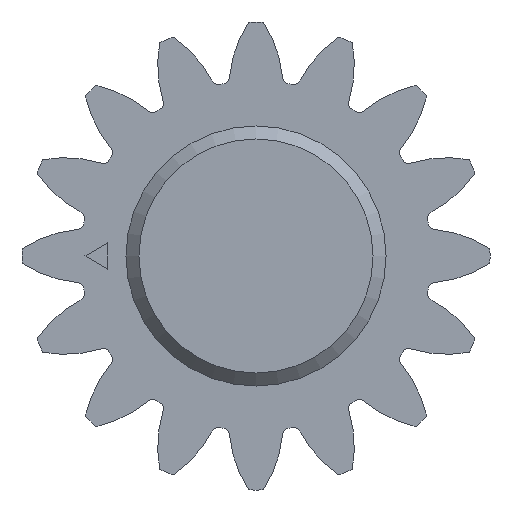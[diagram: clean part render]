
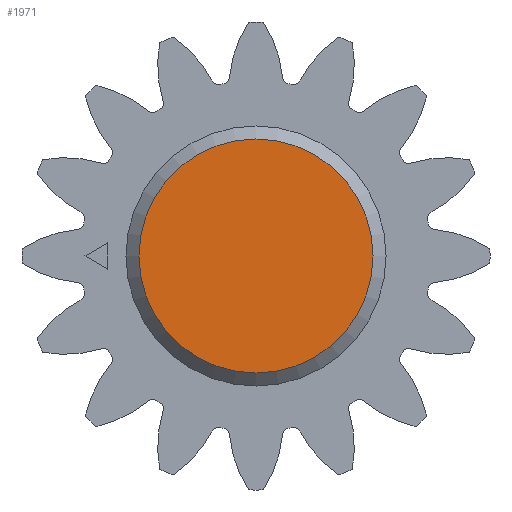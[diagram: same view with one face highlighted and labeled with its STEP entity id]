
A CAD part, left-side view. The second image highlights one B-rep face of the part: STEP entity #1971.
In plain terms, the highlighted planar face has unit normal (-1, 0, 0).
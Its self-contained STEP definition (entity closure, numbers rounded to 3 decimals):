
#119=CIRCLE('',#2107,9.);
#329=FACE_OUTER_BOUND('',#441,.T.);
#441=EDGE_LOOP('',(#1353));
#797=VERTEX_POINT('',#3196);
#1016=EDGE_CURVE('',#797,#797,#119,.T.);
#1353=ORIENTED_EDGE('',*,*,#1016,.F.);
#1957=PLANE('',#2110);
#1971=ADVANCED_FACE('',(#329),#1957,.F.);
#2107=AXIS2_PLACEMENT_3D('',#3198,#2451,#2452);
#2110=AXIS2_PLACEMENT_3D('',#3203,#2458,#2459);
#2451=DIRECTION('center_axis',(1.,0.,0.));
#2452=DIRECTION('ref_axis',(0.,0.,1.));
#2458=DIRECTION('center_axis',(1.,0.,0.));
#2459=DIRECTION('ref_axis',(0.,0.,-1.));
#3196=CARTESIAN_POINT('',(-22.,0.,-9.));
#3198=CARTESIAN_POINT('Origin',(-22.,0.,0.));
#3203=CARTESIAN_POINT('Origin',(-22.,0.,0.));
